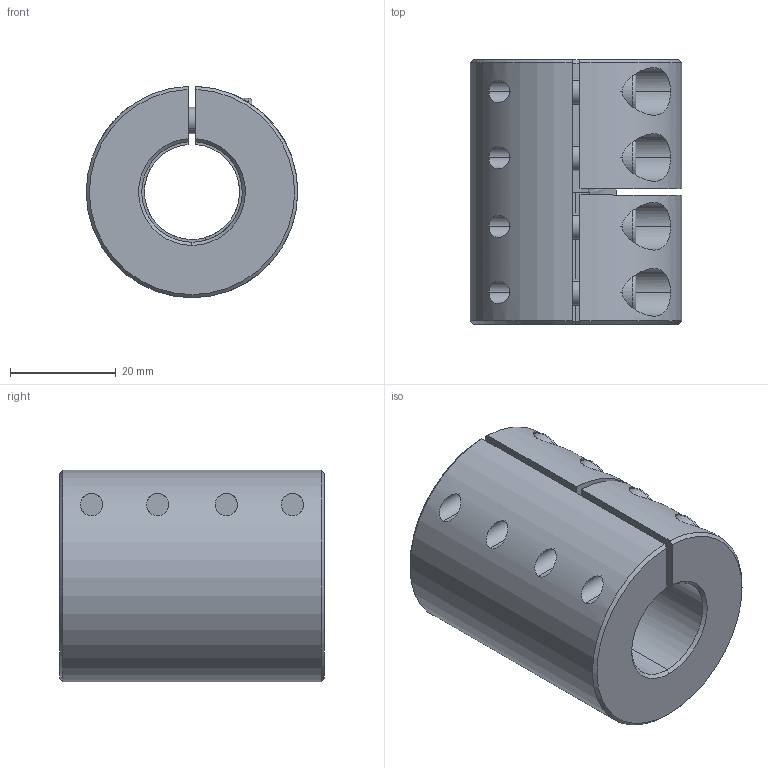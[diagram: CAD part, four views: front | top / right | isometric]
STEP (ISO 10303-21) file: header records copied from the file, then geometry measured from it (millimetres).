
FILE_DESCRIPTION (( 'STEP AP214' ), '1' );
FILE_NAME ('LL-B-D40L50-18-19½¨Ä£.STEP', '2022-07-22T00:27:38', ( '' ), ( '' ), 'SwSTEP 2.0', 'SolidWorks 2022', '' );
FILE_SCHEMA (( 'AUTOMOTIVE_DESIGN' ));
Length unit declared in the file: millimetre
Products named in the file (1): LL-B-D40L50-18-19膘耀
Bounding box: 40 x 50 x 39.99 mm (x, y, z)
Volume: 46573.2 mm3; surface area: 15387.4 mm2
Topology: 1 solids, 1 shells, 176 faces, 444 edges, 278 vertices
Faces by surface type: plane 84, cylinder 70, cone 14, torus 8
Entity records: 5801 total; most frequent: CARTESIAN_POINT 1475, DIRECTION 941, ORIENTED_EDGE 872, EDGE_CURVE 436, AXIS2_PLACEMENT_3D 368, VERTEX_POINT 278, EDGE_LOOP 208, LINE 205
